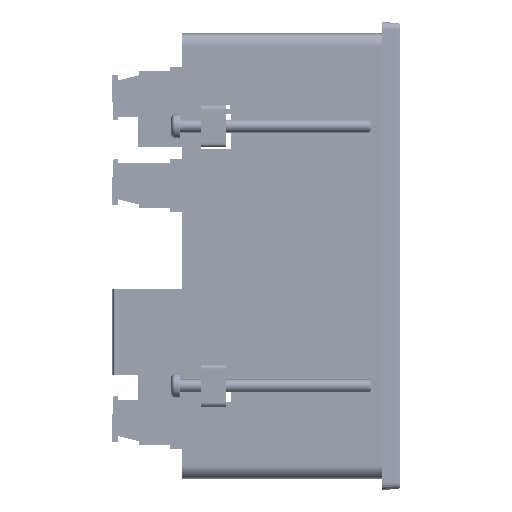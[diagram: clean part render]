
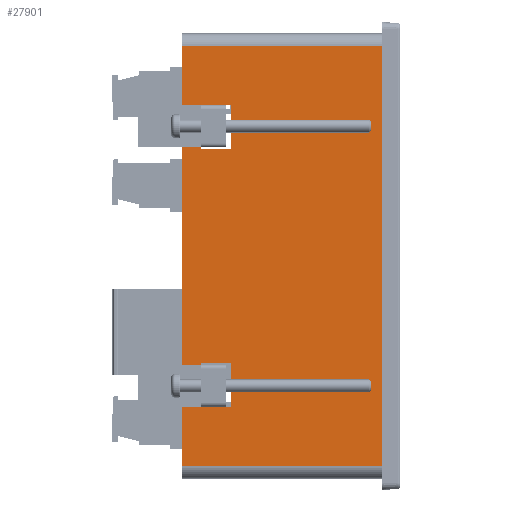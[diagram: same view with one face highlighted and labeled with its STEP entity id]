
A CAD part, front view. The second image highlights one B-rep face of the part: STEP entity #27901.
In plain terms, the highlighted planar face has unit normal (0, -1, 0).
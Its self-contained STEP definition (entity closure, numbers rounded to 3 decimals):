
#27901=ADVANCED_FACE('',(#86004),#86006,.F.);
#86004=FACE_BOUND('',#86005,.T.);
#86005=EDGE_LOOP('',(#145164,#145165,#145166,#145167,#145168,#145169,#145170,#145171,
#145172,#145173,#145174,#145175,#145176,#145177,#145178,#145179,#145180,#145181));
#86006=PLANE('',#86007);
#86007=AXIS2_PLACEMENT_3D('',#86008,#86009,#86010);
#86008=CARTESIAN_POINT('',(-1.824,-52.539,52.539));
#86009=DIRECTION('',(0.,1.,0.));
#86010=DIRECTION('',(0.,0.,1.));
#145164=ORIENTED_EDGE('',*,*,#175042,.F.);
#145165=ORIENTED_EDGE('',*,*,#175043,.F.);
#145166=ORIENTED_EDGE('',*,*,#174579,.F.);
#145167=ORIENTED_EDGE('',*,*,#175044,.F.);
#145168=ORIENTED_EDGE('',*,*,#175045,.F.);
#145169=ORIENTED_EDGE('',*,*,#175046,.F.);
#145170=ORIENTED_EDGE('',*,*,#175047,.T.);
#145171=ORIENTED_EDGE('',*,*,#175048,.T.);
#145172=ORIENTED_EDGE('',*,*,#175049,.F.);
#145173=ORIENTED_EDGE('',*,*,#175050,.F.);
#145174=ORIENTED_EDGE('',*,*,#174573,.F.);
#145175=ORIENTED_EDGE('',*,*,#175039,.F.);
#145176=ORIENTED_EDGE('',*,*,#175051,.T.);
#145177=ORIENTED_EDGE('',*,*,#175052,.T.);
#145178=ORIENTED_EDGE('',*,*,#175053,.T.);
#145179=ORIENTED_EDGE('',*,*,#175015,.T.);
#145180=ORIENTED_EDGE('',*,*,#175054,.T.);
#145181=ORIENTED_EDGE('',*,*,#175055,.T.);
#174573=EDGE_CURVE('',#199452,#199454,#199455,.T.);
#174579=EDGE_CURVE('',#199462,#199464,#199465,.T.);
#175015=EDGE_CURVE('',#200249,#200250,#200251,.T.);
#175039=EDGE_CURVE('',#200290,#199452,#200292,.T.);
#175042=EDGE_CURVE('',#200296,#200297,#200298,.F.);
#175043=EDGE_CURVE('',#199464,#200296,#200299,.T.);
#175044=EDGE_CURVE('',#200300,#199462,#200301,.T.);
#175045=EDGE_CURVE('',#200302,#200300,#200303,.T.);
#175046=EDGE_CURVE('',#200304,#200302,#200305,.T.);
#175047=EDGE_CURVE('',#200304,#200306,#200307,.T.);
#175048=EDGE_CURVE('',#200306,#200308,#200309,.F.);
#175049=EDGE_CURVE('',#200310,#200308,#200311,.T.);
#175050=EDGE_CURVE('',#199454,#200310,#200312,.T.);
#175051=EDGE_CURVE('',#200290,#200313,#200314,.T.);
#175052=EDGE_CURVE('',#200313,#200315,#200316,.T.);
#175053=EDGE_CURVE('',#200315,#200249,#200317,.T.);
#175054=EDGE_CURVE('',#200250,#200318,#200319,.T.);
#175055=EDGE_CURVE('',#200318,#200297,#200320,.T.);
#199452=VERTEX_POINT('',#251615);
#199454=VERTEX_POINT('',#251619);
#199455=LINE('',#251620,#251621);
#199462=VERTEX_POINT('',#251637);
#199464=VERTEX_POINT('',#251641);
#199465=LINE('',#251642,#251643);
#200249=VERTEX_POINT('',#253415);
#200250=VERTEX_POINT('',#253416);
#200251=LINE('',#253417,#253418);
#200290=VERTEX_POINT('',#253592);
#200292=LINE('',#253596,#253597);
#200296=VERTEX_POINT('',#253606);
#200297=VERTEX_POINT('',#253607);
#200298=LINE('',#253608,#253609);
#200299=LINE('',#253611,#253612);
#200300=VERTEX_POINT('',#253614);
#200301=LINE('',#253615,#253616);
#200302=VERTEX_POINT('',#253618);
#200303=LINE('',#253619,#253620);
#200304=VERTEX_POINT('',#253622);
#200305=LINE('',#253623,#253624);
#200306=VERTEX_POINT('',#253626);
#200307=LINE('',#253627,#253628);
#200308=VERTEX_POINT('',#253630);
#200309=LINE('',#253631,#253632);
#200310=VERTEX_POINT('',#253634);
#200311=LINE('',#253635,#253636);
#200312=LINE('',#253638,#253639);
#200313=VERTEX_POINT('',#253641);
#200314=LINE('',#253642,#253643);
#200315=VERTEX_POINT('',#253645);
#200316=LINE('',#253646,#253647);
#200317=LINE('',#253649,#253650);
#200318=VERTEX_POINT('',#253652);
#200319=LINE('',#253653,#253654);
#200320=LINE('',#253656,#253657);
#251615=CARTESIAN_POINT('',(-1.824,-52.539,-35.617));
#251619=CARTESIAN_POINT('',(-1.824,-52.539,-25.358));
#251620=CARTESIAN_POINT('',(-1.824,-52.539,-35.617));
#251621=VECTOR('',#251622,1.);
#251622=DIRECTION('',(0.,0.,1.));
#251637=CARTESIAN_POINT('',(-1.824,-52.539,25.358));
#251641=CARTESIAN_POINT('',(-1.824,-52.539,35.617));
#251642=CARTESIAN_POINT('',(-1.824,-52.539,25.358));
#251643=VECTOR('',#251644,1.);
#251644=DIRECTION('',(0.,0.,1.));
#253415=CARTESIAN_POINT('',(33.982,-52.539,-49.551));
#253416=CARTESIAN_POINT('',(33.982,-52.539,49.551));
#253417=CARTESIAN_POINT('',(33.982,-52.539,-49.551));
#253418=VECTOR('',#253419,1.);
#253419=DIRECTION('',(0.,0.,1.));
#253592=CARTESIAN_POINT('',(-5.796,-52.539,-35.617));
#253596=CARTESIAN_POINT('',(-5.796,-52.539,-35.617));
#253597=VECTOR('',#253598,1.);
#253598=DIRECTION('',(1.,0.,0.));
#253606=CARTESIAN_POINT('',(-5.796,-52.539,35.617));
#253607=CARTESIAN_POINT('',(-13.278,-52.539,35.617));
#253608=CARTESIAN_POINT('',(-13.278,-52.539,35.617));
#253609=VECTOR('',#253610,1.);
#253610=DIRECTION('',(1.,0.,0.));
#253611=CARTESIAN_POINT('',(-1.824,-52.539,35.617));
#253612=VECTOR('',#253613,1.);
#253613=DIRECTION('',(-1.,0.,0.));
#253614=CARTESIAN_POINT('',(-8.796,-52.539,25.358));
#253615=CARTESIAN_POINT('',(-8.796,-52.539,25.358));
#253616=VECTOR('',#253617,1.);
#253617=DIRECTION('',(1.,0.,0.));
#253618=CARTESIAN_POINT('',(-8.796,-52.539,25.617));
#253619=CARTESIAN_POINT('',(-8.796,-52.539,25.617));
#253620=VECTOR('',#253621,1.);
#253621=DIRECTION('',(0.,0.,-1.));
#253622=CARTESIAN_POINT('',(-13.278,-52.539,25.617));
#253623=CARTESIAN_POINT('',(-13.278,-52.539,25.617));
#253624=VECTOR('',#253625,1.);
#253625=DIRECTION('',(1.,0.,0.));
#253626=CARTESIAN_POINT('',(-13.278,-52.539,-25.617));
#253627=CARTESIAN_POINT('',(-13.278,-52.539,25.617));
#253628=VECTOR('',#253629,1.);
#253629=DIRECTION('',(0.,0.,-1.));
#253630=CARTESIAN_POINT('',(-8.796,-52.539,-25.617));
#253631=CARTESIAN_POINT('',(-8.796,-52.539,-25.617));
#253632=VECTOR('',#253633,1.);
#253633=DIRECTION('',(-1.,0.,0.));
#253634=CARTESIAN_POINT('',(-8.796,-52.539,-25.358));
#253635=CARTESIAN_POINT('',(-8.796,-52.539,-25.358));
#253636=VECTOR('',#253637,1.);
#253637=DIRECTION('',(0.,0.,-1.));
#253638=CARTESIAN_POINT('',(-1.824,-52.539,-25.358));
#253639=VECTOR('',#253640,1.);
#253640=DIRECTION('',(-1.,0.,0.));
#253641=CARTESIAN_POINT('',(-13.278,-52.539,-35.617));
#253642=CARTESIAN_POINT('',(-5.796,-52.539,-35.617));
#253643=VECTOR('',#253644,1.);
#253644=DIRECTION('',(-1.,0.,0.));
#253645=CARTESIAN_POINT('',(-13.278,-52.539,-49.551));
#253646=CARTESIAN_POINT('',(-13.278,-52.539,-35.617));
#253647=VECTOR('',#253648,1.);
#253648=DIRECTION('',(0.,0.,-1.));
#253649=CARTESIAN_POINT('',(-13.278,-52.539,-49.551));
#253650=VECTOR('',#253651,1.);
#253651=DIRECTION('',(1.,0.,0.));
#253652=CARTESIAN_POINT('',(-13.278,-52.539,49.551));
#253653=CARTESIAN_POINT('',(33.982,-52.539,49.551));
#253654=VECTOR('',#253655,1.);
#253655=DIRECTION('',(-1.,0.,0.));
#253656=CARTESIAN_POINT('',(-13.278,-52.539,49.551));
#253657=VECTOR('',#253658,1.);
#253658=DIRECTION('',(0.,0.,-1.));
